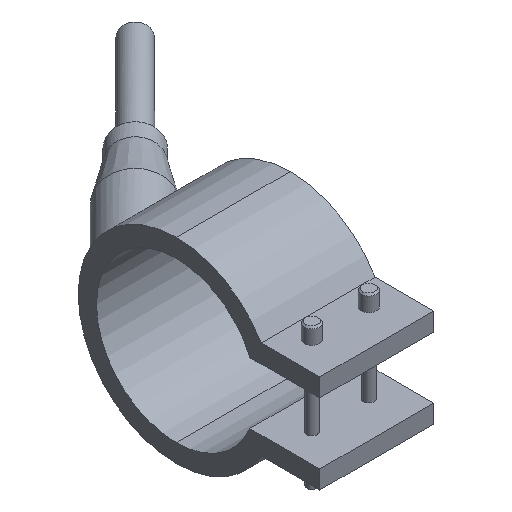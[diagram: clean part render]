
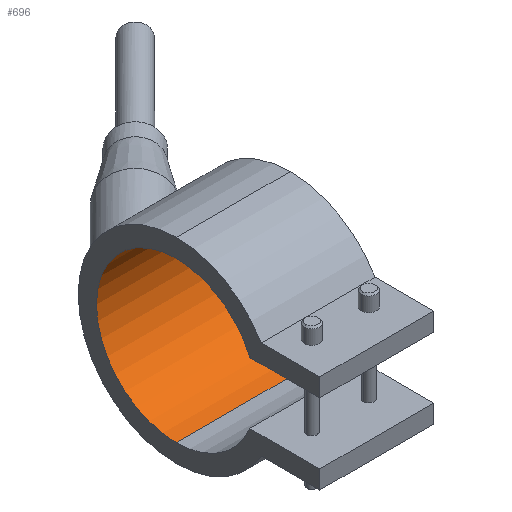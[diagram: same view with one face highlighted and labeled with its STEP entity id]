
A CAD part, isometric view. The second image highlights one B-rep face of the part: STEP entity #696.
In plain terms, the highlighted cylindrical face has radius 17.5 mm (diameter 35 mm), a partial arc.
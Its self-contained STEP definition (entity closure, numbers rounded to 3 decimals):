
#366=CARTESIAN_POINT('Vertex',(12.5,0.,17.5)) ;
#371=CARTESIAN_POINT('Axis2P3D Location',(12.5,0.,0.)) ;
#375=CARTESIAN_POINT('Vertex',(12.5,0.,-17.5)) ;
#482=CARTESIAN_POINT('Vertex',(-12.5,0.,-17.5)) ;
#485=CARTESIAN_POINT('Axis2P3D Location',(-12.5,0.,0.)) ;
#489=CARTESIAN_POINT('Vertex',(-12.5,0.,17.5)) ;
#668=CARTESIAN_POINT('Line Origine',(0.,0.,17.5)) ;
#680=CARTESIAN_POINT('Axis2P3D Location',(12.5,0.,0.)) ;
#685=CARTESIAN_POINT('Line Origine',(0.,0.,-17.5)) ;
#372=DIRECTION('Axis2P3D Direction',(1.,0.,0.)) ;
#486=DIRECTION('Axis2P3D Direction',(1.,0.,0.)) ;
#669=DIRECTION('Vector Direction',(1.,0.,0.)) ;
#681=DIRECTION('Axis2P3D Direction',(1.,0.,-0.)) ;
#682=DIRECTION('Axis2P3D XDirection',(0.,0.,-1.)) ;
#686=DIRECTION('Vector Direction',(1.,0.,0.)) ;
#373=AXIS2_PLACEMENT_3D('Circle Axis2P3D',#371,#372,$) ;
#487=AXIS2_PLACEMENT_3D('Circle Axis2P3D',#485,#486,$) ;
#683=AXIS2_PLACEMENT_3D('Cylinder Axis2P3D',#680,#681,#682) ;
#691=ORIENTED_EDGE('',*,*,#377,.T.) ;
#692=ORIENTED_EDGE('',*,*,#672,.T.) ;
#693=ORIENTED_EDGE('',*,*,#491,.F.) ;
#694=ORIENTED_EDGE('',*,*,#689,.T.) ;
#670=VECTOR('Line Direction',#669,1.) ;
#687=VECTOR('Line Direction',#686,1.) ;
#696=ADVANCED_FACE('29035025',(#695),#684,.F.) ;
#374=CIRCLE('generated circle',#373,17.5) ;
#488=CIRCLE('generated circle',#487,17.5) ;
#684=CYLINDRICAL_SURFACE('generated cylinder',#683,17.5) ;
#377=EDGE_CURVE('',#376,#367,#374,.T.) ;
#491=EDGE_CURVE('',#483,#490,#488,.T.) ;
#672=EDGE_CURVE('',#367,#490,#671,.F.) ;
#689=EDGE_CURVE('',#483,#376,#688,.T.) ;
#690=EDGE_LOOP('',(#691,#692,#693,#694)) ;
#695=FACE_OUTER_BOUND('',#690,.T.) ;
#671=LINE('Line',#668,#670) ;
#688=LINE('Line',#685,#687) ;
#367=VERTEX_POINT('',#366) ;
#376=VERTEX_POINT('',#375) ;
#483=VERTEX_POINT('',#482) ;
#490=VERTEX_POINT('',#489) ;
